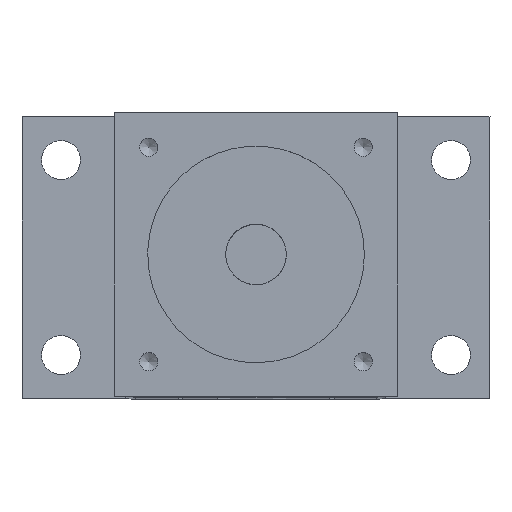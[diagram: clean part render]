
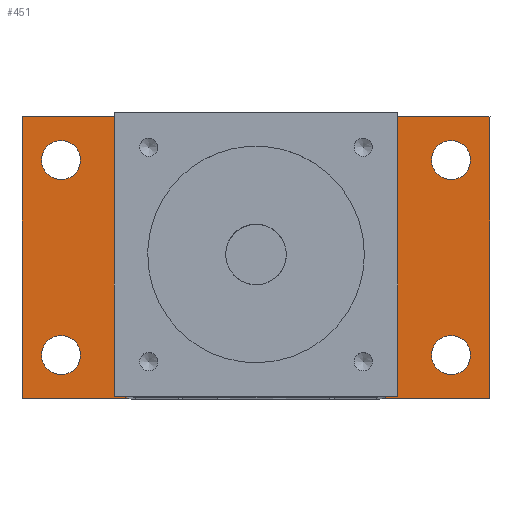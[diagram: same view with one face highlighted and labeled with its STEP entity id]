
A CAD part, top view. The second image highlights one B-rep face of the part: STEP entity #451.
In plain terms, the highlighted free-form (B-spline) face has degree [1, 1] with [2, 2] control points.
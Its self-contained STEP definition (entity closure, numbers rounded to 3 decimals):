
#51=CARTESIAN_POINT('',(-54.,-32.5,-6.));
#52=VERTEX_POINT('',#51);
#53=CARTESIAN_POINT('',(54.,-32.5,-6.));
#54=VERTEX_POINT('',#53);
#55=CARTESIAN_POINT('',(-54.,-32.5,-6.));
#56=CARTESIAN_POINT('',(54.,-32.5,-6.));
#57=B_SPLINE_CURVE_WITH_KNOTS('',1,(#55,#56),.POLYLINE_FORM.,.F.,.U.,(2,2),(0.,1.),.UNSPECIFIED.);
#58=EDGE_CURVE('',#52,#54,#57,.T.);
#87=CARTESIAN_POINT('',(54.,32.5,-6.));
#88=VERTEX_POINT('',#87);
#89=CARTESIAN_POINT('',(54.,-32.5,-6.));
#90=CARTESIAN_POINT('',(54.,32.5,-6.));
#91=B_SPLINE_CURVE_WITH_KNOTS('',1,(#89,#90),.POLYLINE_FORM.,.F.,.U.,(2,2),(0.,1.),.UNSPECIFIED.);
#92=EDGE_CURVE('',#54,#88,#91,.T.);
#115=CARTESIAN_POINT('',(-54.,32.5,-6.));
#116=VERTEX_POINT('',#115);
#117=CARTESIAN_POINT('',(54.,32.5,-6.));
#118=CARTESIAN_POINT('',(-54.,32.5,-6.));
#119=B_SPLINE_CURVE_WITH_KNOTS('',1,(#117,#118),.POLYLINE_FORM.,.F.,.U.,(2,2),(0.,1.),.UNSPECIFIED.);
#120=EDGE_CURVE('',#88,#116,#119,.T.);
#143=CARTESIAN_POINT('',(-54.,32.5,-6.));
#144=CARTESIAN_POINT('',(-54.,-32.5,-6.));
#145=B_SPLINE_CURVE_WITH_KNOTS('',1,(#143,#144),.POLYLINE_FORM.,.F.,.U.,(2,2),(0.,1.),.UNSPECIFIED.);
#146=EDGE_CURVE('',#116,#52,#145,.T.);
#185=CARTESIAN_POINT('',(49.5,-22.5,-6.));
#186=VERTEX_POINT('',#185);
#192=CARTESIAN_POINT('',(49.5,-22.5,-6.));
#193=CARTESIAN_POINT('',(49.5,-14.706,-6.));
#194=CARTESIAN_POINT('',(42.75,-18.603,-6.));
#195=CARTESIAN_POINT('',(36.,-22.5,-6.));
#196=CARTESIAN_POINT('',(42.75,-26.397,-6.));
#197=CARTESIAN_POINT('',(49.5,-30.294,-6.));
#198=CARTESIAN_POINT('',(49.5,-22.5,-6.));
#199=(BOUNDED_CURVE()B_SPLINE_CURVE(2,(#192,#193,#194,#195,#196,#197,#198),.CIRCULAR_ARC.,.T.,.U.)B_SPLINE_CURVE_WITH_KNOTS((3,2,2,3),(0.,0.333,0.667,1.),.UNSPECIFIED.)CURVE()GEOMETRIC_REPRESENTATION_ITEM()RATIONAL_B_SPLINE_CURVE((1.,0.5,1.,0.5,1.,0.5,1.))REPRESENTATION_ITEM(''));
#200=EDGE_CURVE('',#186,#186,#199,.T.);
#233=CARTESIAN_POINT('',(-40.5,-22.5,-6.));
#234=VERTEX_POINT('',#233);
#240=CARTESIAN_POINT('',(-40.5,-22.5,-6.));
#241=CARTESIAN_POINT('',(-40.5,-14.706,-6.));
#242=CARTESIAN_POINT('',(-47.25,-18.603,-6.));
#243=CARTESIAN_POINT('',(-54.,-22.5,-6.));
#244=CARTESIAN_POINT('',(-47.25,-26.397,-6.));
#245=CARTESIAN_POINT('',(-40.5,-30.294,-6.));
#246=CARTESIAN_POINT('',(-40.5,-22.5,-6.));
#247=(BOUNDED_CURVE()B_SPLINE_CURVE(2,(#240,#241,#242,#243,#244,#245,#246),.CIRCULAR_ARC.,.T.,.U.)B_SPLINE_CURVE_WITH_KNOTS((3,2,2,3),(0.,0.333,0.667,1.),.UNSPECIFIED.)CURVE()GEOMETRIC_REPRESENTATION_ITEM()RATIONAL_B_SPLINE_CURVE((1.,0.5,1.,0.5,1.,0.5,1.))REPRESENTATION_ITEM(''));
#248=EDGE_CURVE('',#234,#234,#247,.T.);
#281=CARTESIAN_POINT('',(49.5,22.5,-6.));
#282=VERTEX_POINT('',#281);
#288=CARTESIAN_POINT('',(49.5,22.5,-6.));
#289=CARTESIAN_POINT('',(49.5,30.294,-6.));
#290=CARTESIAN_POINT('',(42.75,26.397,-6.));
#291=CARTESIAN_POINT('',(36.,22.5,-6.));
#292=CARTESIAN_POINT('',(42.75,18.603,-6.));
#293=CARTESIAN_POINT('',(49.5,14.706,-6.));
#294=CARTESIAN_POINT('',(49.5,22.5,-6.));
#295=(BOUNDED_CURVE()B_SPLINE_CURVE(2,(#288,#289,#290,#291,#292,#293,#294),.CIRCULAR_ARC.,.T.,.U.)B_SPLINE_CURVE_WITH_KNOTS((3,2,2,3),(0.,0.333,0.667,1.),.UNSPECIFIED.)CURVE()GEOMETRIC_REPRESENTATION_ITEM()RATIONAL_B_SPLINE_CURVE((1.,0.5,1.,0.5,1.,0.5,1.))REPRESENTATION_ITEM(''));
#296=EDGE_CURVE('',#282,#282,#295,.T.);
#329=CARTESIAN_POINT('',(-40.5,22.5,-6.));
#330=VERTEX_POINT('',#329);
#336=CARTESIAN_POINT('',(-40.5,22.5,-6.));
#337=CARTESIAN_POINT('',(-40.5,30.294,-6.));
#338=CARTESIAN_POINT('',(-47.25,26.397,-6.));
#339=CARTESIAN_POINT('',(-54.,22.5,-6.));
#340=CARTESIAN_POINT('',(-47.25,18.603,-6.));
#341=CARTESIAN_POINT('',(-40.5,14.706,-6.));
#342=CARTESIAN_POINT('',(-40.5,22.5,-6.));
#343=(BOUNDED_CURVE()B_SPLINE_CURVE(2,(#336,#337,#338,#339,#340,#341,#342),.CIRCULAR_ARC.,.T.,.U.)B_SPLINE_CURVE_WITH_KNOTS((3,2,2,3),(0.,0.333,0.667,1.),.UNSPECIFIED.)CURVE()GEOMETRIC_REPRESENTATION_ITEM()RATIONAL_B_SPLINE_CURVE((1.,0.5,1.,0.5,1.,0.5,1.))REPRESENTATION_ITEM(''));
#344=EDGE_CURVE('',#330,#330,#343,.T.);
#350=CARTESIAN_POINT('',(-59.4,-37.9,-6.));
#351=CARTESIAN_POINT('',(-59.4,80.9,-6.));
#352=CARTESIAN_POINT('',(59.4,-37.9,-6.));
#353=CARTESIAN_POINT('',(59.4,80.9,-6.));
#354=B_SPLINE_SURFACE_WITH_KNOTS('',1,1,((#350,#351),(#352,#353)),.PLANE_SURF.,.F.,.F.,.U.,(2,2),(2,2),(0.,1.),(0.,1.),.UNSPECIFIED.);
#355=ORIENTED_EDGE('',*,*,#58,.T.);
#356=ORIENTED_EDGE('',*,*,#92,.T.);
#357=ORIENTED_EDGE('',*,*,#120,.T.);
#358=ORIENTED_EDGE('',*,*,#146,.T.);
#359=EDGE_LOOP('',(#355,#356,#357,#358));
#360=FACE_OUTER_BOUND('',#359,.F.);
#361=CARTESIAN_POINT('',(-18.75,23.25,-6.));
#362=VERTEX_POINT('',#361);
#363=CARTESIAN_POINT('',(-18.75,23.25,-6.));
#364=CARTESIAN_POINT('',(-18.75,18.75,-6.));
#365=CARTESIAN_POINT('',(-23.25,18.75,-6.));
#366=CARTESIAN_POINT('',(-27.75,18.75,-6.));
#367=CARTESIAN_POINT('',(-27.75,23.25,-6.));
#368=CARTESIAN_POINT('',(-27.75,27.75,-6.));
#369=CARTESIAN_POINT('',(-23.25,27.75,-6.));
#370=CARTESIAN_POINT('',(-18.75,27.75,-6.));
#371=CARTESIAN_POINT('',(-18.75,23.25,-6.));
#372=(BOUNDED_CURVE()B_SPLINE_CURVE(2,(#363,#364,#365,#366,#367,#368,#369,#370,#371),.CIRCULAR_ARC.,.T.,.U.)B_SPLINE_CURVE_WITH_KNOTS((3,2,2,2,3),(0.,0.25,0.5,0.75,1.),.UNSPECIFIED.)CURVE()GEOMETRIC_REPRESENTATION_ITEM()RATIONAL_B_SPLINE_CURVE((1.,0.707,1.,0.707,1.,0.707,1.,0.707,1.))REPRESENTATION_ITEM(''));
#373=EDGE_CURVE('',#362,#362,#372,.T.);
#374=ORIENTED_EDGE('',*,*,#373,.T.);
#375=EDGE_LOOP('',(#374));
#376=FACE_BOUND('',#375,.F.);
#377=CARTESIAN_POINT('',(-18.75,-23.25,-6.));
#378=VERTEX_POINT('',#377);
#379=CARTESIAN_POINT('',(-18.75,-23.25,-6.));
#380=CARTESIAN_POINT('',(-18.75,-27.75,-6.));
#381=CARTESIAN_POINT('',(-23.25,-27.75,-6.));
#382=CARTESIAN_POINT('',(-27.75,-27.75,-6.));
#383=CARTESIAN_POINT('',(-27.75,-23.25,-6.));
#384=CARTESIAN_POINT('',(-27.75,-18.75,-6.));
#385=CARTESIAN_POINT('',(-23.25,-18.75,-6.));
#386=CARTESIAN_POINT('',(-18.75,-18.75,-6.));
#387=CARTESIAN_POINT('',(-18.75,-23.25,-6.));
#388=(BOUNDED_CURVE()B_SPLINE_CURVE(2,(#379,#380,#381,#382,#383,#384,#385,#386,#387),.CIRCULAR_ARC.,.T.,.U.)B_SPLINE_CURVE_WITH_KNOTS((3,2,2,2,3),(0.,0.25,0.5,0.75,1.),.UNSPECIFIED.)CURVE()GEOMETRIC_REPRESENTATION_ITEM()RATIONAL_B_SPLINE_CURVE((1.,0.707,1.,0.707,1.,0.707,1.,0.707,1.))REPRESENTATION_ITEM(''));
#389=EDGE_CURVE('',#378,#378,#388,.T.);
#390=ORIENTED_EDGE('',*,*,#389,.T.);
#391=EDGE_LOOP('',(#390));
#392=FACE_BOUND('',#391,.F.);
#393=CARTESIAN_POINT('',(27.75,23.25,-6.));
#394=VERTEX_POINT('',#393);
#395=CARTESIAN_POINT('',(27.75,23.25,-6.));
#396=CARTESIAN_POINT('',(27.75,18.75,-6.));
#397=CARTESIAN_POINT('',(23.25,18.75,-6.));
#398=CARTESIAN_POINT('',(18.75,18.75,-6.));
#399=CARTESIAN_POINT('',(18.75,23.25,-6.));
#400=CARTESIAN_POINT('',(18.75,27.75,-6.));
#401=CARTESIAN_POINT('',(23.25,27.75,-6.));
#402=CARTESIAN_POINT('',(27.75,27.75,-6.));
#403=CARTESIAN_POINT('',(27.75,23.25,-6.));
#404=(BOUNDED_CURVE()B_SPLINE_CURVE(2,(#395,#396,#397,#398,#399,#400,#401,#402,#403),.CIRCULAR_ARC.,.T.,.U.)B_SPLINE_CURVE_WITH_KNOTS((3,2,2,2,3),(0.,0.25,0.5,0.75,1.),.UNSPECIFIED.)CURVE()GEOMETRIC_REPRESENTATION_ITEM()RATIONAL_B_SPLINE_CURVE((1.,0.707,1.,0.707,1.,0.707,1.,0.707,1.))REPRESENTATION_ITEM(''));
#405=EDGE_CURVE('',#394,#394,#404,.T.);
#406=ORIENTED_EDGE('',*,*,#405,.T.);
#407=EDGE_LOOP('',(#406));
#408=FACE_BOUND('',#407,.F.);
#409=CARTESIAN_POINT('',(27.75,-23.25,-6.));
#410=VERTEX_POINT('',#409);
#411=CARTESIAN_POINT('',(27.75,-23.25,-6.));
#412=CARTESIAN_POINT('',(27.75,-27.75,-6.));
#413=CARTESIAN_POINT('',(23.25,-27.75,-6.));
#414=CARTESIAN_POINT('',(18.75,-27.75,-6.));
#415=CARTESIAN_POINT('',(18.75,-23.25,-6.));
#416=CARTESIAN_POINT('',(18.75,-18.75,-6.));
#417=CARTESIAN_POINT('',(23.25,-18.75,-6.));
#418=CARTESIAN_POINT('',(27.75,-18.75,-6.));
#419=CARTESIAN_POINT('',(27.75,-23.25,-6.));
#420=(BOUNDED_CURVE()B_SPLINE_CURVE(2,(#411,#412,#413,#414,#415,#416,#417,#418,#419),.CIRCULAR_ARC.,.T.,.U.)B_SPLINE_CURVE_WITH_KNOTS((3,2,2,2,3),(0.,0.25,0.5,0.75,1.),.UNSPECIFIED.)CURVE()GEOMETRIC_REPRESENTATION_ITEM()RATIONAL_B_SPLINE_CURVE((1.,0.707,1.,0.707,1.,0.707,1.,0.707,1.))REPRESENTATION_ITEM(''));
#421=EDGE_CURVE('',#410,#410,#420,.T.);
#422=ORIENTED_EDGE('',*,*,#421,.T.);
#423=EDGE_LOOP('',(#422));
#424=FACE_BOUND('',#423,.F.);
#425=ORIENTED_EDGE('',*,*,#200,.F.);
#426=EDGE_LOOP('',(#425));
#427=FACE_BOUND('',#426,.F.);
#428=ORIENTED_EDGE('',*,*,#248,.F.);
#429=EDGE_LOOP('',(#428));
#430=FACE_BOUND('',#429,.F.);
#431=ORIENTED_EDGE('',*,*,#296,.F.);
#432=EDGE_LOOP('',(#431));
#433=FACE_BOUND('',#432,.F.);
#434=ORIENTED_EDGE('',*,*,#344,.F.);
#435=EDGE_LOOP('',(#434));
#436=FACE_BOUND('',#435,.F.);
#437=CARTESIAN_POINT('',(20.,0.,-6.));
#438=VERTEX_POINT('',#437);
#439=CARTESIAN_POINT('',(20.,0.,-6.));
#440=CARTESIAN_POINT('',(20.,34.641,-6.));
#441=CARTESIAN_POINT('',(-10.,17.321,-6.));
#442=CARTESIAN_POINT('',(-40.,0.,-6.));
#443=CARTESIAN_POINT('',(-10.,-17.321,-6.));
#444=CARTESIAN_POINT('',(20.,-34.641,-6.));
#445=CARTESIAN_POINT('',(20.,0.,-6.));
#446=(BOUNDED_CURVE()B_SPLINE_CURVE(2,(#439,#440,#441,#442,#443,#444,#445),.CIRCULAR_ARC.,.T.,.U.)B_SPLINE_CURVE_WITH_KNOTS((3,2,2,3),(0.,0.333,0.667,1.),.UNSPECIFIED.)CURVE()GEOMETRIC_REPRESENTATION_ITEM()RATIONAL_B_SPLINE_CURVE((1.,0.5,1.,0.5,1.,0.5,1.))REPRESENTATION_ITEM(''));
#447=EDGE_CURVE('',#438,#438,#446,.T.);
#448=ORIENTED_EDGE('',*,*,#447,.F.);
#449=EDGE_LOOP('',(#448));
#450=FACE_BOUND('',#449,.F.);
#451=ADVANCED_FACE('',(#360,#376,#392,#408,#424,#427,#430,#433,#436,#450),#354,.F.);
